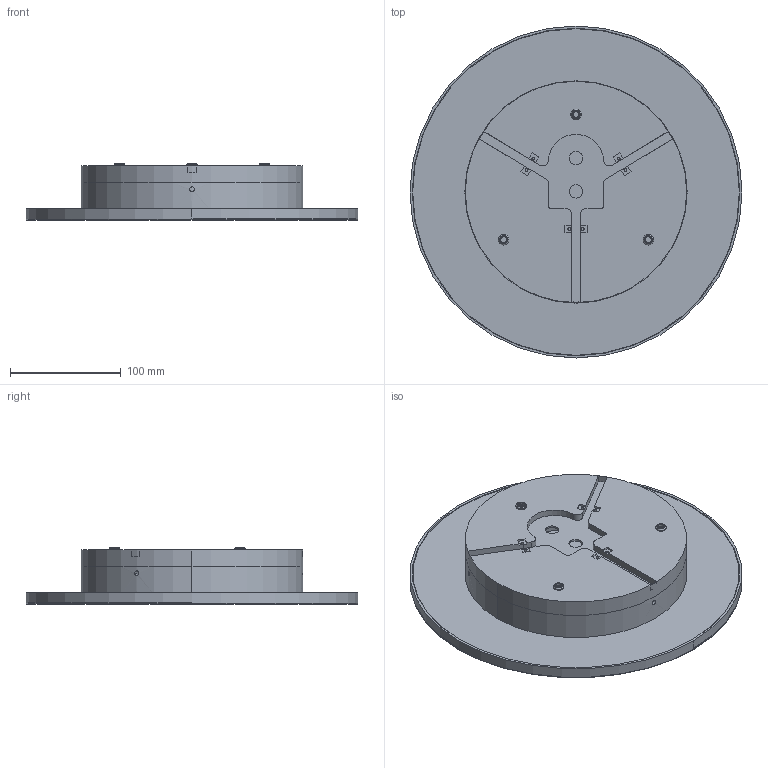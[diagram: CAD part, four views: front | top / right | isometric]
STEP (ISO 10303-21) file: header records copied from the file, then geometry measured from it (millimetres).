
FILE_DESCRIPTION (( 'STEP AP214' ), '1' );
FILE_NAME ('COMBO-A39661-30.STEP', '2026-01-13T08:35:42', ( '' ), ( '' ), 'SwSTEP 2.0', 'SolidWorks 2025', '' );
FILE_SCHEMA (( 'AUTOMOTIVE_DESIGN' ));
Length unit declared in the file: millimetre
Products named in the file (6): 300-000; 300-30002; 300-PC; 300-30001; 300-3000; COMBO-A39661-30
Assembly tree (5 placements, depth 2):
  COMBO-A39661-30
    300-30001
    300-30002
    300-3000
    300-000
    300-PC
Bounding box: 300 x 300 x 51 mm (x, y, z)
Volume: 480372.6 mm3; surface area: 410885.3 mm2
Topology: 5 solids, 8 shells, 578 faces, 1487 edges, 976 vertices
Faces by surface type: plane 279, cylinder 234, bspline 42, torus 17, cone 6
Entity records: 19364 total; most frequent: CARTESIAN_POINT 4872, DIRECTION 3007, ORIENTED_EDGE 2974, EDGE_CURVE 1487, AXIS2_PLACEMENT_3D 1087, VERTEX_POINT 976, LINE 833, VECTOR 833
